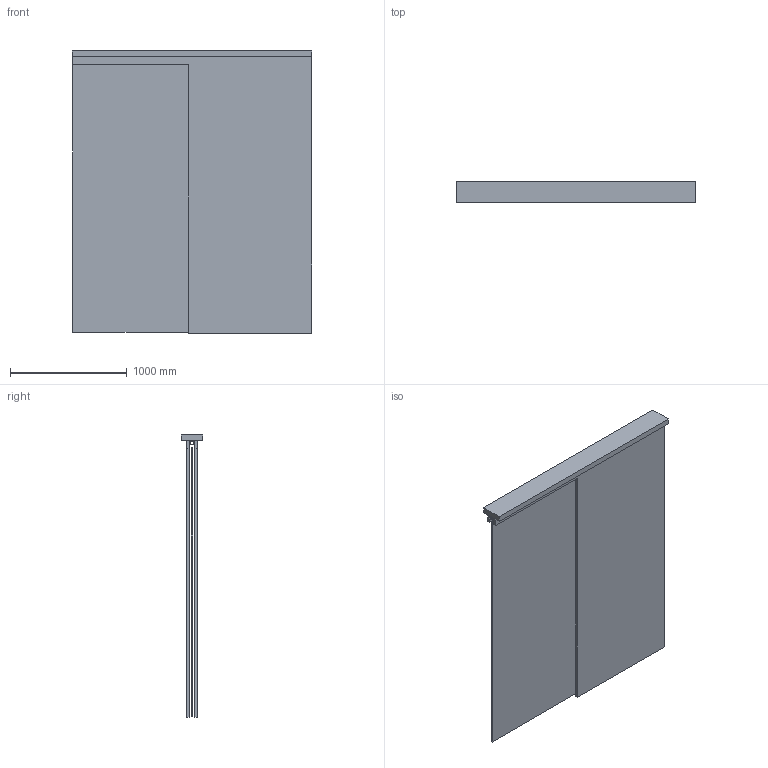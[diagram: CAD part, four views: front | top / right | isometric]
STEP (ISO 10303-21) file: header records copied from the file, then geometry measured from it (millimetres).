
FILE_DESCRIPTION(('STEP AP242'),'1');
FILE_NAME('OPO_56.047.01_volu_3d.stp','2026-01-14T05:19:55',(' '),(' '),'Spatial InterOp 3D',' ',' ');
FILE_SCHEMA(('AP242_MANAGED_MODEL_BASED_3D_ENGINEERING_MIM_LF {1 0 10303 442 1 1 4}'));
Length unit declared in the file: millimetre
Products named in the file (1): 1
Bounding box: 2050 x 188 x 2418 mm (x, y, z)
Volume: 141653454.4 mm3; surface area: 16989800.4 mm2
Topology: 5 solids, 5 shells, 104 faces, 268 edges, 178 vertices
Faces by surface type: plane 84, cylinder 20
Entity records: 4001 total; most frequent: CARTESIAN_POINT 555, ORIENTED_EDGE 536, DIRECTION 526, EDGE_CURVE 268, LINE 228, VECTOR 228, VERTEX_POINT 178, AXIS2_PLACEMENT_3D 149
